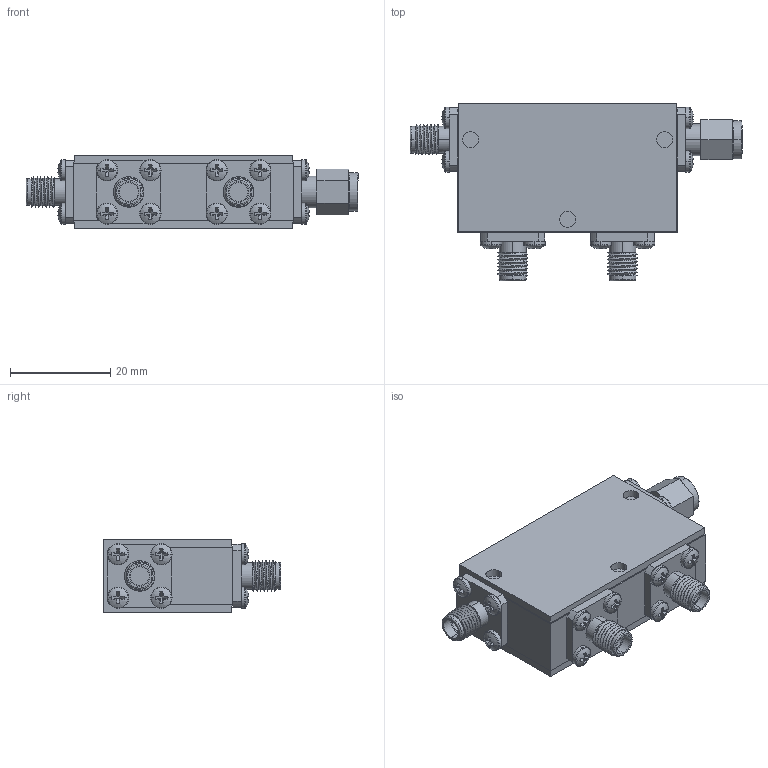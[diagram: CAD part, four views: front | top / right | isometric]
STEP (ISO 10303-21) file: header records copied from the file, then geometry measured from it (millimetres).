
FILE_DESCRIPTION (( 'STEP AP214' ), '1' );
FILE_NAME ('Package 19-2 Circ FMFF, Cryo Shielded.STEP', '2023-12-20T23:07:15', ( '' ), ( '' ), 'SwSTEP 2.0', 'SolidWorks 2016', '' );
FILE_SCHEMA (( 'AUTOMOTIVE_DESIGN' ));
Length unit declared in the file: inch
Products named in the file (6): Package 19-2 Circ FMFF, Cryo Shielded; Delta SMA-Male; Package Size 19; Delta SMA-Female 0.500 flange Threaded; WR055; pan cross head_ai_CR-PHMS 0.086-56x0.125x0.125-N
Assembly tree (22 placements, depth 2):
  Package 19-2 Circ FMFF, Cryo Shielded
    Delta SMA-Female 0.500 flange Threaded  x3
    pan cross head_ai_CR-PHMS 0.086-56x0.125x0.125-N  x16
    Package Size 19
    Delta SMA-Male
    WR055
Bounding box: 66.09 x 35.31 x 14.58 mm (x, y, z)
Volume: 17940.3 mm3; surface area: 13467.2 mm2
Topology: 22 solids, 22 shells, 576 faces, 1319 edges, 815 vertices
Faces by surface type: plane 313, cylinder 178, torus 44, sphere 32, bspline 9
Entity records: 5809 total; most frequent: CARTESIAN_POINT 1539, DIRECTION 915, ORIENTED_EDGE 758, EDGE_CURVE 379, AXIS2_PLACEMENT_3D 369, VERTEX_POINT 243, EDGE_LOOP 208, CIRCLE 194
